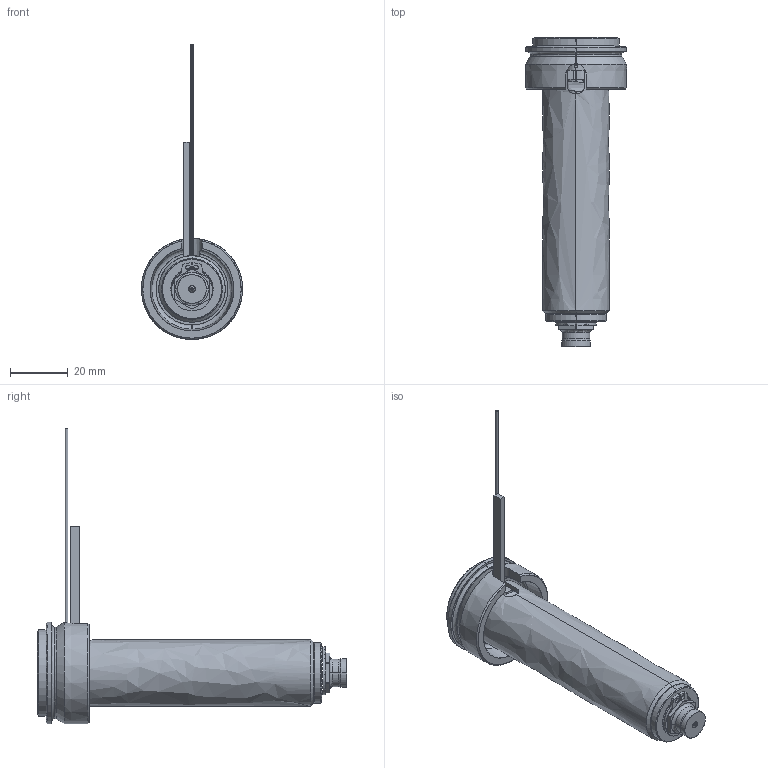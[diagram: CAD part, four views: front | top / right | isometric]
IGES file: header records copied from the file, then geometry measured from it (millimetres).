
Start section: SolidWorks IGES file using analytic representation for surfaces
Global section: file name: C:\Documents and Settings\ws-20\Desktop\TEM\UGEP3152-M-A-0 [Øf-0.90 P-0 ØC-6.0].IGS; native system: SolidWorks 2012; preprocessor: SolidWorks 2012; author: ws-20; date: 120404.080619; units: millimetre
Bounding box: 35 x 107 x 102.1 mm (x, y, z)
Surface area: 17998.4 mm2 (no closed solid volume)
Topology: 0 solids, 0 shells, 119 faces, 1680 edges, 1680 vertices
Faces by surface type: revolution 71, bspline 48
